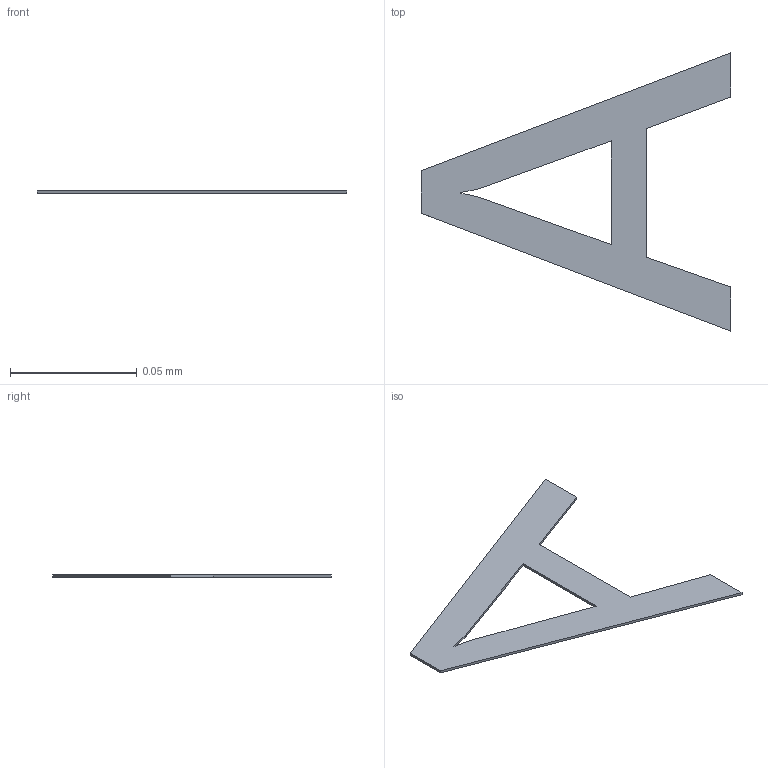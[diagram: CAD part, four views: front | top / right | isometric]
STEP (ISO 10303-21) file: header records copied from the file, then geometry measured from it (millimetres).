
FILE_DESCRIPTION(/* description */ ('STEP AP242 Edition 2','CAx-IF Rec.Pracs.---Representation and Presentation of Product Manufacturing Information (PMI)---4.0---2014-10-13','CAx-IF Rec.Pracs.---3D Tessellated Geometry---0.4---2014-09-14','2;1','CAx-IF Rec.Pracs.---User Defined Attributes---1.5---2016-08-15'),/* implementation_level */ '2;1');
FILE_NAME(/* name */ 'Assembly 1 - SOT-223_L6.5-W3.5-P2.30-LS7.0-BR~SOT-223-4P_L6.5-W3.5-H1.6-LS7.0-P2.30~nxQB (7)',/* time_stamp */ '2026-04-02T09:55:23Z',/* author */ (''),/* organization */ (''),/* preprocessor_version */ 'ST-DEVELOPER v20',/* originating_system */ 'ONSHAPE BY PTC INC, 1.212',/* authorisation */ ' ');
FILE_SCHEMA (('AP242_MANAGED_MODEL_BASED_3D_ENGINEERING_MIM_LF { 1 0 10303 442 3 1 4 }'));
Length unit declared in the file: metre
Products named in the file (1): SOT-223_L6.5-W3.5-P2.30-LS7.0-BR~SOT-223-4P_L6.5-W3.5-H1.6-LS7.0-P2.3
0~nxQB
Bounding box: 0.12 x 0.11 x 0 mm (x, y, z)
Volume: 0 mm3; surface area: 0 mm2
Topology: 1 solids, 1 shells, 16 faces, 42 edges, 28 vertices
Faces by surface type: plane 14, bspline 2
Entity records: 637 total; most frequent: CARTESIAN_POINT 113, ORIENTED_EDGE 84, DIRECTION 68, EDGE_CURVE 42, LINE 38, VECTOR 38, VERTEX_POINT 28, EDGE_LOOP 18
